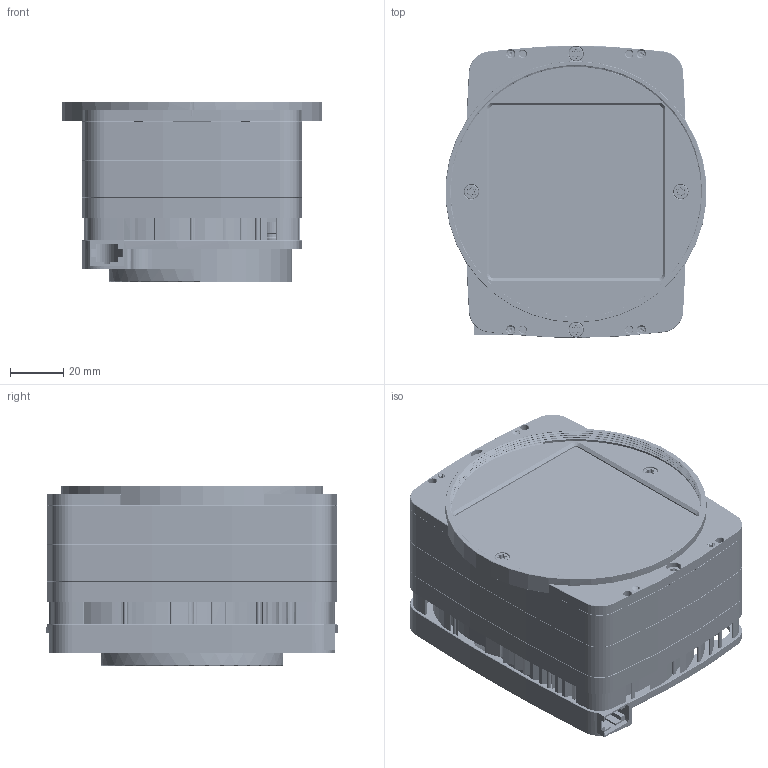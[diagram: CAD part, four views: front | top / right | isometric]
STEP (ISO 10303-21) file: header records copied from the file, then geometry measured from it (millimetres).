
FILE_DESCRIPTION(/* description */ (''),/* implementation_level */ '2;1');
FILE_NAME(/* name */ 'STP-MX-(MX377MG-GP-X4G3-MTP)-FAN-REV2.stp',/* time_stamp */ '2019-09-02T13:41:24+02:00',/* author */ (''),/* organization */ (''),/* preprocessor_version */ 'ST-DEVELOPER v16',/* originating_system */ 'SIEMENS PLM Software NX 11.0',/* authorisation */ '');
FILE_SCHEMA (('AUTOMOTIVE_DESIGN { 1 0 10303 214 3 1 1 1 }'));
Products named in the file (19): SCREW-M1.6X20-TX; FSCOM-12072; HR25-9TR-12SA; BINDER-0933918104; FAN; FPM-rev3; FXM-REV3; SCREW-M1.6X8-TX; peltier-16.8x16.8x3.29; HD-REV2; SCREW-M3X6-TX; GESENSE6060; RUBBER; FHX; FLT-GLASS-71.8x71.8x3.6; FH-REV2; FM95-REV2; 00_ASSMEBLY-FAN-F; 00_ASSEBMLY-MX377
Assembly tree (46 placements, depth 3):
  00_ASSEBMLY-MX377
    FM95-REV2
    FH-REV2
    FLT-GLASS-71.8x71.8x3.6
    FHX
    RUBBER  x4
    GESENSE6060
    SCREW-M3X6-TX  x4
    HD-REV2
    peltier-16.8x16.8x3.29  x2
    00_ASSMEBLY-FAN-F
      FXM-REV3
      FPM-rev3
      FAN
      BINDER-0933918104
      HR25-9TR-12SA
      FSCOM-12072
      SCREW-M1.6X20-TX  x9
      SCREW-M1.6X8-TX  x2
    SCREW-M1.6X8-TX  x12
Bounding box: 97.82 x 109.48 x 67.56 mm (x, y, z)
Volume: 184924.3 mm3; surface area: 216595 mm2
Topology: 302 solids, 305 shells, 5200 faces, 12217 edges, 8000 vertices
Faces by surface type: plane 2016, cylinder 1891, cone 744, bspline 488, sphere 42, torus 19
Full cylindrical faces by diameter (mm): 0.4 x5, 0.46 x250, 0.6 x4, 0.8 x1, 1 x4, 1.05 x10, 1.3 x9, 1.6 x62, 1.78 x249, 2 x5, 2.5 x144, 2.8 x4, 2.9 x1, 2.95 x23, 3 x8, 3.2 x33, 3.6 x4, 5.5 x4, 5.6 x5, 5.8 x5, 6.5 x3, 6.9 x1, 8 x5, 10 x2, 12.7 x1, 14 x4, 15 x1, 17 x1, 25.4 x1, 29 x1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
Entity records: 327538 total; most frequent: CARTESIAN_POINT 229126, DIRECTION 19565, ORIENTED_EDGE 18548, EDGE_CURVE 9274, AXIS2_PLACEMENT_3D 8015, VERTEX_POINT 6504, EDGE_LOOP 5892, ADVANCED_FACE 4480
